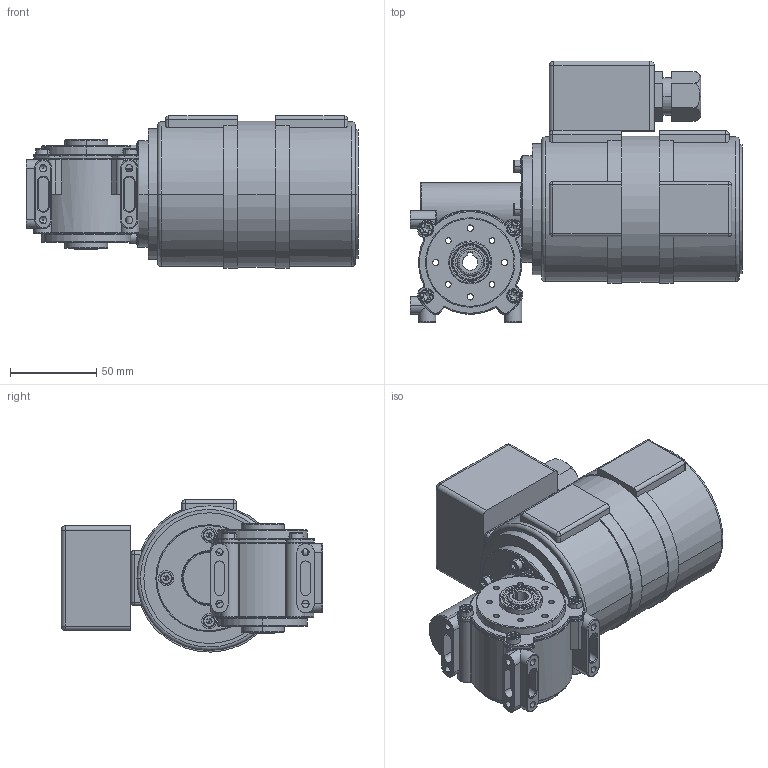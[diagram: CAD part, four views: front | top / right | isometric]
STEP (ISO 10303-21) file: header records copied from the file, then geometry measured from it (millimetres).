
FILE_DESCRIPTION (( 'STEP AP214' ), '1' );
FILE_NAME ('SN18H_45W_1400Upm_D.STEP', '2021-03-17T07:48:54', ( '' ), ( '' ), 'SwSTEP 2.0', 'SolidWorks 2019', '' );
FILE_SCHEMA (( 'AUTOMOTIVE_DESIGN' ));
Length unit declared in the file: millimetre
Products named in the file (1): SN18H_45W_1400Upm_D
Bounding box: 193 x 152 x 88.5 mm (x, y, z)
Surface area: 97271.6 mm2 (no closed solid volume)
Topology: 0 solids, 17 shells, 625 faces, 1721 edges, 1094 vertices
Faces by surface type: cylinder 315, torus 128, plane 128, cone 32, sphere 18, bspline 4
Entity records: 29485 total; most frequent: CARTESIAN_POINT 6594, DIRECTION 3617, ORIENTED_EDGE 3129, EDGE_CURVE 1689, AXIS2_PLACEMENT_3D 1510, VERTEX_POINT 1091, CIRCLE 888, EDGE_LOOP 711
